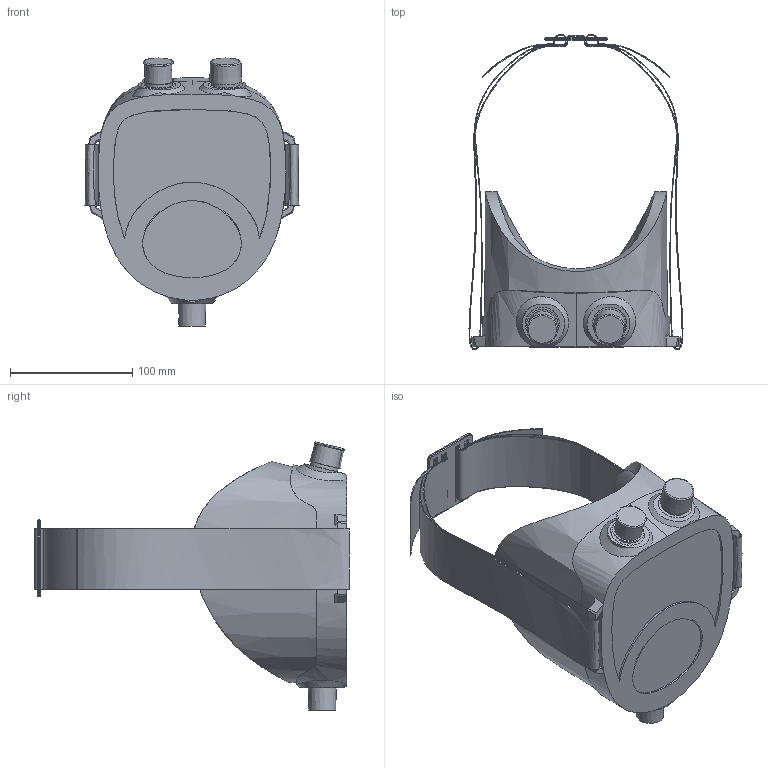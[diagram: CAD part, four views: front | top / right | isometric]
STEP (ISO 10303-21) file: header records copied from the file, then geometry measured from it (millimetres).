
FILE_DESCRIPTION(/* description */ (''),/* implementation_level */ '2;1');
FILE_NAME(/* name */ 'C:/Users/Rodrigo/Documents/Inventor/COVID/MASK/DELIVERY/COVID19_Mascarilla_Completa.step',/* time_stamp */ '2020-04-27T13:31:34-05:00',/* author */ (''),/* organization */ (''),/* preprocessor_version */ 'ST-DEVELOPER v18.1',/* originating_system */ 'Autodesk Translation Framework v9.2.0.1227',/* authorisation */ '');
FILE_SCHEMA (('AUTOMOTIVE_DESIGN { 1 0 10303 214 3 1 1 }'));
Length unit declared in the file: millimetre
Products named in the file (12): mascara C; Carcasa C; acrilico inferior; acrilico superior; hule cara 2.4mm 3/32; Eva nariz 5mm; Elastico_50mm_solo; clip_big; adaptador mang; tapa; adaptador mang v1(Mirror); tapa v3(Mirror)
Assembly tree (12 placements, depth 2):
  mascara C
    Carcasa C
    acrilico inferior
    acrilico superior
    hule cara 2.4mm 3/32
    Eva nariz 5mm
    Elastico_50mm_solo
    adaptador mang  x2
    clip_big
    tapa
    adaptador mang v1(Mirror)
    tapa v3(Mirror)
Bounding box: 174.89 x 257.29 x 218.97 mm (x, y, z)
Volume: 698637.5 mm3; surface area: 406463 mm2
Topology: 12 solids, 12 shells, 245 faces, 664 edges, 431 vertices
Faces by surface type: plane 112, bspline 75, cylinder 31, cone 25, torus 2
Full cylindrical faces by diameter (mm): 17.664 x3, 20 x6, 27.7 x3, 28 x3
Entity records: 16788 total; most frequent: CARTESIAN_POINT 11164, ORIENTED_EDGE 1296, DIRECTION 733, EDGE_CURVE 648, VERTEX_POINT 422, B_SPLINE_CURVE_WITH_KNOTS 346, EDGE_LOOP 270, AXIS2_PLACEMENT_3D 246
